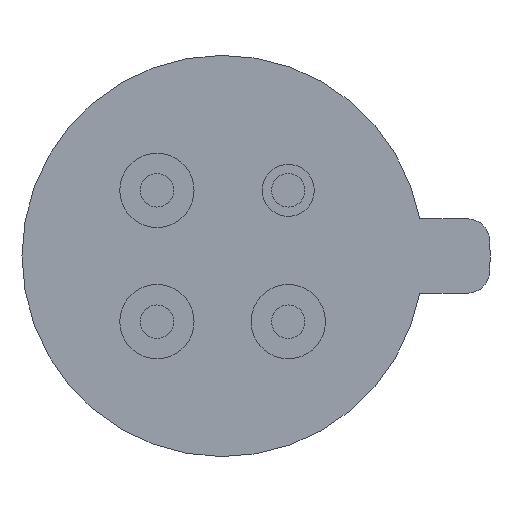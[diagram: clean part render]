
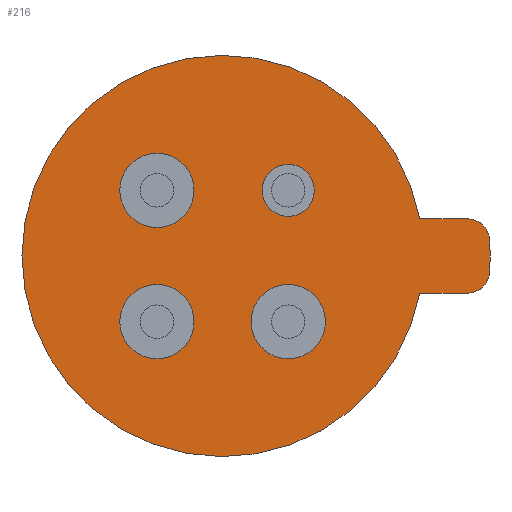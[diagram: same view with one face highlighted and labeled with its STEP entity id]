
A CAD part, left-side view. The second image highlights one B-rep face of the part: STEP entity #216.
In plain terms, the highlighted planar face has unit normal (-1, 0, 0).
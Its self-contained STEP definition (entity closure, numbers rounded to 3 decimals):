
#216=ADVANCED_FACE('',(#518,#520,#522,#524,#526),#528,.F.);
#518=FACE_BOUND('',#519,.T.);
#519=EDGE_LOOP('',(#928,#929,#930,#931,#932,#933));
#520=FACE_BOUND('',#521,.T.);
#521=EDGE_LOOP('',(#934));
#522=FACE_BOUND('',#523,.T.);
#523=EDGE_LOOP('',(#935));
#524=FACE_BOUND('',#525,.T.);
#525=EDGE_LOOP('',(#936));
#526=FACE_BOUND('',#527,.T.);
#527=EDGE_LOOP('',(#937));
#528=PLANE('',#529);
#529=AXIS2_PLACEMENT_3D('',#530,#531,#532);
#530=CARTESIAN_POINT('',(0.,0.,0.));
#531=DIRECTION('',(1.,0.,0.));
#532=DIRECTION('',(0.,1.,0.));
#928=ORIENTED_EDGE('',*,*,#1197,.F.);
#929=ORIENTED_EDGE('',*,*,#1195,.F.);
#930=ORIENTED_EDGE('',*,*,#1193,.F.);
#931=ORIENTED_EDGE('',*,*,#1191,.F.);
#932=ORIENTED_EDGE('',*,*,#1189,.F.);
#933=ORIENTED_EDGE('',*,*,#1186,.F.);
#934=ORIENTED_EDGE('',*,*,#1198,.F.);
#935=ORIENTED_EDGE('',*,*,#1199,.F.);
#936=ORIENTED_EDGE('',*,*,#1200,.F.);
#937=ORIENTED_EDGE('',*,*,#1201,.F.);
#1186=EDGE_CURVE('',#1292,#1293,#1294,.T.);
#1189=EDGE_CURVE('',#1293,#1297,#1298,.T.);
#1191=EDGE_CURVE('',#1297,#1300,#1301,.T.);
#1193=EDGE_CURVE('',#1300,#1303,#1304,.T.);
#1195=EDGE_CURVE('',#1303,#1306,#1307,.T.);
#1197=EDGE_CURVE('',#1306,#1292,#1309,.T.);
#1198=EDGE_CURVE('',#1310,#1310,#1311,.T.);
#1199=EDGE_CURVE('',#1312,#1312,#1313,.T.);
#1200=EDGE_CURVE('',#1314,#1314,#1315,.T.);
#1201=EDGE_CURVE('',#1316,#1316,#1317,.T.);
#1292=VERTEX_POINT('',#1447);
#1293=VERTEX_POINT('',#1448);
#1294=LINE('',#1449,#1450);
#1297=VERTEX_POINT('',#1458);
#1298=CIRCLE('',#1459,2.7);
#1300=VERTEX_POINT('',#1466);
#1301=LINE('',#1467,#1468);
#1303=VERTEX_POINT('',#1473);
#1304=CIRCLE('',#1474,0.3);
#1306=VERTEX_POINT('',#1481);
#1307=CIRCLE('',#1482,3.6);
#1309=CIRCLE('',#1489,0.3);
#1310=VERTEX_POINT('',#1493);
#1311=CIRCLE('',#1494,0.35);
#1312=VERTEX_POINT('',#1498);
#1313=CIRCLE('',#1499,0.5);
#1314=VERTEX_POINT('',#1503);
#1315=CIRCLE('',#1504,0.5);
#1316=VERTEX_POINT('',#1508);
#1317=CIRCLE('',#1509,0.5);
#1447=CARTESIAN_POINT('',(0.,-3.294,-0.5));
#1448=CARTESIAN_POINT('',(0.,-2.653,-0.5));
#1449=CARTESIAN_POINT('',(0.,-3.294,-0.5));
#1450=VECTOR('',#1451,1.);
#1451=DIRECTION('',(0.,1.,0.));
#1458=CARTESIAN_POINT('',(0.,-2.653,0.5));
#1459=AXIS2_PLACEMENT_3D('',#1460,#1461,#1462);
#1460=CARTESIAN_POINT('',(0.,0.,0.));
#1461=DIRECTION('',(1.,0.,0.));
#1462=DIRECTION('',(0.,-0.983,-0.185));
#1466=CARTESIAN_POINT('',(0.,-3.294,0.5));
#1467=CARTESIAN_POINT('',(0.,-2.653,0.5));
#1468=VECTOR('',#1469,1.);
#1469=DIRECTION('',(0.,-1.,0.));
#1473=CARTESIAN_POINT('',(0.,-3.593,0.218));
#1474=AXIS2_PLACEMENT_3D('',#1475,#1476,#1477);
#1475=CARTESIAN_POINT('',(0.,-3.294,0.2));
#1476=DIRECTION('',(1.,0.,0.));
#1477=DIRECTION('',(0.,0.,1.));
#1481=CARTESIAN_POINT('',(0.,-3.593,-0.218));
#1482=AXIS2_PLACEMENT_3D('',#1483,#1484,#1485);
#1483=CARTESIAN_POINT('',(0.,0.,0.));
#1484=DIRECTION('',(1.,0.,0.));
#1485=DIRECTION('',(0.,-0.998,0.061));
#1489=AXIS2_PLACEMENT_3D('',#1490,#1491,#1492);
#1490=CARTESIAN_POINT('',(0.,-3.294,-0.2));
#1491=DIRECTION('',(1.,0.,0.));
#1492=DIRECTION('',(0.,-0.998,-0.061));
#1493=CARTESIAN_POINT('',(0.,-1.234,0.884));
#1494=AXIS2_PLACEMENT_3D('',#1495,#1496,#1497);
#1495=CARTESIAN_POINT('',(0.,-0.884,0.884));
#1496=DIRECTION('',(-1.,0.,0.));
#1497=DIRECTION('',(0.,-1.,0.));
#1498=CARTESIAN_POINT('',(0.,-1.384,-0.884));
#1499=AXIS2_PLACEMENT_3D('',#1500,#1501,#1502);
#1500=CARTESIAN_POINT('',(0.,-0.884,-0.884));
#1501=DIRECTION('',(-1.,0.,0.));
#1502=DIRECTION('',(0.,-1.,0.));
#1503=CARTESIAN_POINT('',(0.,0.384,-0.884));
#1504=AXIS2_PLACEMENT_3D('',#1505,#1506,#1507);
#1505=CARTESIAN_POINT('',(0.,0.884,-0.884));
#1506=DIRECTION('',(-1.,0.,0.));
#1507=DIRECTION('',(0.,-1.,0.));
#1508=CARTESIAN_POINT('',(0.,0.384,0.884));
#1509=AXIS2_PLACEMENT_3D('',#1510,#1511,#1512);
#1510=CARTESIAN_POINT('',(0.,0.884,0.884));
#1511=DIRECTION('',(-1.,0.,0.));
#1512=DIRECTION('',(0.,-1.,0.));
